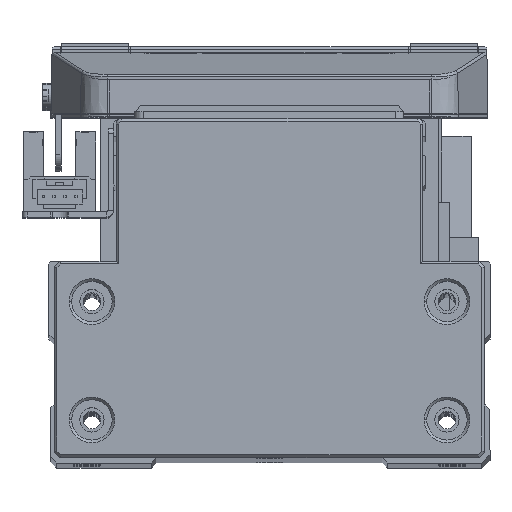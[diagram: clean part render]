
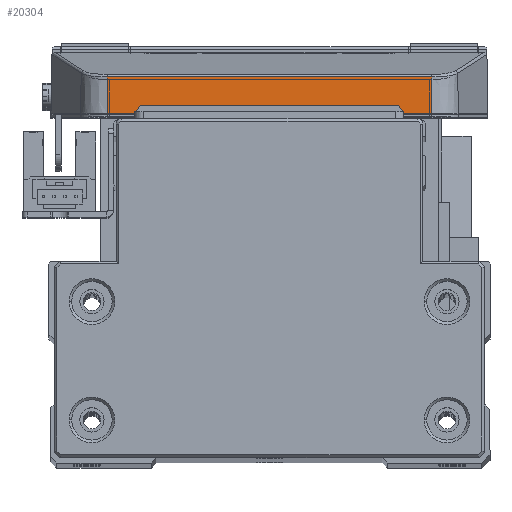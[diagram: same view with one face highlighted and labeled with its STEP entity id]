
A CAD part, top view. The second image highlights one B-rep face of the part: STEP entity #20304.
In plain terms, the highlighted planar face has unit normal (0, 0.018, 1) as drawn and (0, 0.017, -1) by its records, which use the part's own axes.
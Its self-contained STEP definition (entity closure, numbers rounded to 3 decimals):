
#497 = ORIENTED_EDGE ( 'NONE', *, *, #18068, .T. ) ;
#1373 = LINE ( 'NONE', #30168, #30638 ) ;
#2295 = CARTESIAN_POINT ( 'NONE',  ( 40.25, 77.5, -288.962 ) ) ;
#2919 = PLANE ( 'NONE',  #11311 ) ;
#3103 = DIRECTION ( 'NONE',  ( -1., 0., 0. ) ) ;
#4613 = VECTOR ( 'NONE', #45396, 1000. ) ;
#5555 = CARTESIAN_POINT ( 'NONE',  ( 24.076, 66.178, -289.16 ) ) ;
#5978 = LINE ( 'NONE', #35578, #35873 ) ;
#6326 = ORIENTED_EDGE ( 'NONE', *, *, #31844, .T. ) ;
#7184 = FACE_OUTER_BOUND ( 'NONE', #21773, .T. ) ;
#7219 = DIRECTION ( 'NONE',  ( -1., 0., 0. ) ) ;
#8287 = EDGE_CURVE ( 'NONE', #26524, #40890, #39423, .T. ) ;
#9898 = DIRECTION ( 'NONE',  ( 1., 0., 0. ) ) ;
#10380 = CARTESIAN_POINT ( 'NONE',  ( 24.9, 65., -289.18 ) ) ;
#10769 = LINE ( 'NONE', #20213, #4613 ) ;
#10811 = LINE ( 'NONE', #24176, #42412 ) ;
#11133 = CARTESIAN_POINT ( 'NONE',  ( 40.25, 66.5, -289.154 ) ) ;
#11311 = AXIS2_PLACEMENT_3D ( 'NONE', #2295, #16959, #31436 ) ;
#11800 = EDGE_CURVE ( 'NONE', #45985, #37862, #10769, .T. ) ;
#12464 = VERTEX_POINT ( 'NONE', #10380 ) ;
#13045 = EDGE_CURVE ( 'NONE', #21853, #37840, #31015, .T. ) ;
#14570 = ORIENTED_EDGE ( 'NONE', *, *, #37341, .T. ) ;
#15995 = VERTEX_POINT ( 'NONE', #17900 ) ;
#16378 = CARTESIAN_POINT ( 'NONE',  ( 29.994, 65., -289.18 ) ) ;
#16959 = DIRECTION ( 'NONE',  ( 0., 0.017, -1. ) ) ;
#17736 = VECTOR ( 'NONE', #31214, 1000. ) ;
#17900 = CARTESIAN_POINT ( 'NONE',  ( 23.85, 66.5, -289.154 ) ) ;
#18068 = EDGE_CURVE ( 'NONE', #15995, #21853, #24978, .T. ) ;
#19628 = DIRECTION ( 'NONE',  ( -0.574, -0.819, -0.014 ) ) ;
#19965 = DIRECTION ( 'NONE',  ( 0., -1., -0.017 ) ) ;
#20188 = CARTESIAN_POINT ( 'NONE',  ( -24.15, 66.5, -289.154 ) ) ;
#20213 = CARTESIAN_POINT ( 'NONE',  ( 29.994, 77.5, -288.962 ) ) ;
#20304 = ADVANCED_FACE ( 'NONE', ( #7184 ), #2919, .T. ) ;
#21054 = VECTOR ( 'NONE', #7219, 1000. ) ;
#21406 = VECTOR ( 'NONE', #19965, 1000. ) ;
#21773 = EDGE_LOOP ( 'NONE', ( #31192, #43093, #44290, #23213, #14570, #497, #39831, #6326 ) ) ;
#21853 = VERTEX_POINT ( 'NONE', #20188 ) ;
#22975 = CARTESIAN_POINT ( 'NONE',  ( -30.294, 77.5, -288.962 ) ) ;
#23213 = ORIENTED_EDGE ( 'NONE', *, *, #44627, .T. ) ;
#24176 = CARTESIAN_POINT ( 'NONE',  ( 40.25, 71.808, -289.061 ) ) ;
#24285 = VECTOR ( 'NONE', #19628, 1000. ) ;
#24978 = LINE ( 'NONE', #11133, #21054 ) ;
#26524 = VERTEX_POINT ( 'NONE', #31419 ) ;
#27307 = LINE ( 'NONE', #5555, #17736 ) ;
#27982 = CARTESIAN_POINT ( 'NONE',  ( 29.994, 71.808, -289.061 ) ) ;
#30168 = CARTESIAN_POINT ( 'NONE',  ( 40.25, 65., -289.18 ) ) ;
#30326 = DIRECTION ( 'NONE',  ( -1., 0., 0. ) ) ;
#30388 = CARTESIAN_POINT ( 'NONE',  ( -25.2, 65., -289.18 ) ) ;
#30638 = VECTOR ( 'NONE', #30326, 1000. ) ;
#31015 = LINE ( 'NONE', #41346, #24285 ) ;
#31192 = ORIENTED_EDGE ( 'NONE', *, *, #8287, .F. ) ;
#31214 = DIRECTION ( 'NONE',  ( -0.574, 0.819, 0.014 ) ) ;
#31419 = CARTESIAN_POINT ( 'NONE',  ( -30.294, 71.808, -289.061 ) ) ;
#31436 = DIRECTION ( 'NONE',  ( 0., 1., 0.017 ) ) ;
#31844 = EDGE_CURVE ( 'NONE', #37840, #40890, #5978, .T. ) ;
#35578 = CARTESIAN_POINT ( 'NONE',  ( 40.25, 65., -289.18 ) ) ;
#35873 = VECTOR ( 'NONE', #3103, 1000. ) ;
#37341 = EDGE_CURVE ( 'NONE', #12464, #15995, #27307, .T. ) ;
#37840 = VERTEX_POINT ( 'NONE', #30388 ) ;
#37862 = VERTEX_POINT ( 'NONE', #16378 ) ;
#38417 = EDGE_CURVE ( 'NONE', #26524, #45985, #10811, .T. ) ;
#39423 = LINE ( 'NONE', #22975, #21406 ) ;
#39831 = ORIENTED_EDGE ( 'NONE', *, *, #13045, .T. ) ;
#40890 = VERTEX_POINT ( 'NONE', #44269 ) ;
#41346 = CARTESIAN_POINT ( 'NONE',  ( 2.201, 104.134, -288.497 ) ) ;
#42412 = VECTOR ( 'NONE', #9898, 1000. ) ;
#43093 = ORIENTED_EDGE ( 'NONE', *, *, #38417, .T. ) ;
#44269 = CARTESIAN_POINT ( 'NONE',  ( -30.294, 65., -289.18 ) ) ;
#44290 = ORIENTED_EDGE ( 'NONE', *, *, #11800, .T. ) ;
#44627 = EDGE_CURVE ( 'NONE', #37862, #12464, #1373, .T. ) ;
#45396 = DIRECTION ( 'NONE',  ( 0., -1., -0.017 ) ) ;
#45985 = VERTEX_POINT ( 'NONE', #27982 ) ;
